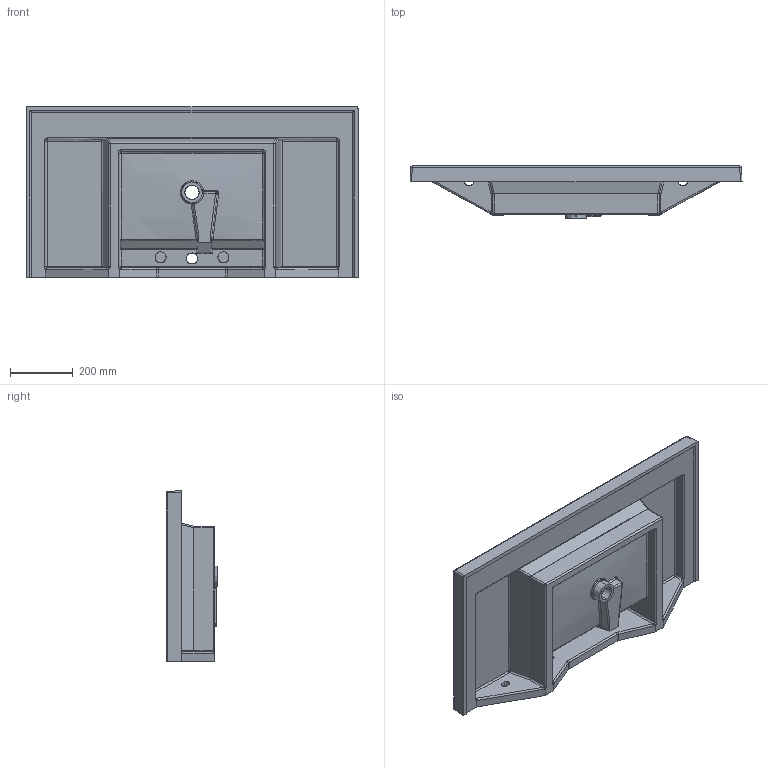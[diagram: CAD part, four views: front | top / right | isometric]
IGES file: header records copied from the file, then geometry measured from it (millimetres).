
Start section: SolidWorks IGES file using analytic representation for surfaces
Global section: file name: K:\lavabi tecla 3D IGS\p. MARS (5)\MARS 54x105MAR03011.IGS; native system: SolidWorks 2013; preprocessor: SolidWorks 2013; author: UTENTE 1; date: 140521.172442; units: millimetre
Bounding box: 1055.24 x 165 x 542.62 mm (x, y, z)
Surface area: 1892753.4 mm2 (no closed solid volume)
Topology: 0 solids, 0 shells, 245 faces, 3056 edges, 3042 vertices
Faces by surface type: revolution 126, bspline 119
